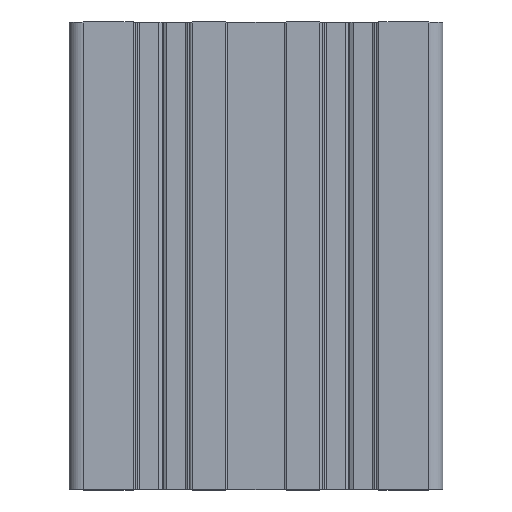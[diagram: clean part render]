
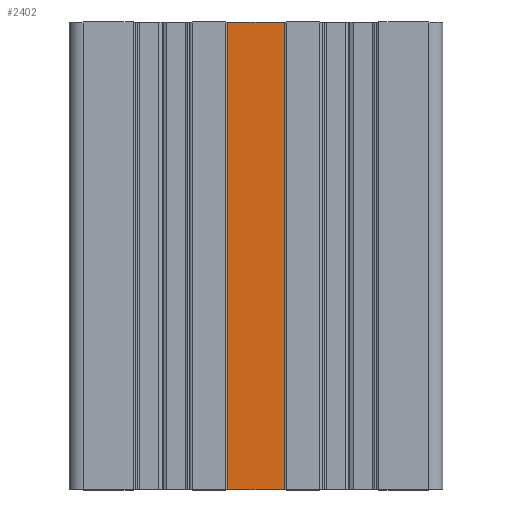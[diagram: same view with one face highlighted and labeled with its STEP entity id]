
A CAD part, top view. The second image highlights one B-rep face of the part: STEP entity #2402.
In plain terms, the highlighted planar face has unit normal (0, 0, 1).
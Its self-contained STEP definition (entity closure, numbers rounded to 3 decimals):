
#2402 = ADVANCED_FACE( '', ( #4835 ), #4836, .T. );
#4835 = FACE_OUTER_BOUND( '', #7272, .T. );
#4836 = PLANE( '', #7273 );
#7272 = EDGE_LOOP( '', ( #15211, #15212, #15213, #15214 ) );
#7273 = AXIS2_PLACEMENT_3D( '', #15215, #15216, #15217 );
#15211 = ORIENTED_EDGE( '', *, *, #16233, .F. );
#15212 = ORIENTED_EDGE( '', *, *, #18366, .F. );
#15213 = ORIENTED_EDGE( '', *, *, #18465, .T. );
#15214 = ORIENTED_EDGE( '', *, *, #17101, .T. );
#15215 = CARTESIAN_POINT( '', ( 6., 100., 59. ) );
#15216 = DIRECTION( '', ( 0., 0., 1. ) );
#15217 = DIRECTION( '', ( 0., -1., 0. ) );
#16233 = EDGE_CURVE( '', #20188, #20190, #20191, .T. );
#17101 = EDGE_CURVE( '', #21544, #20190, #21545, .T. );
#18366 = EDGE_CURVE( '', #23164, #20188, #23166, .T. );
#18465 = EDGE_CURVE( '', #23164, #21544, #23267, .T. );
#20188 = VERTEX_POINT( '', #25519 );
#20190 = VERTEX_POINT( '', #25522 );
#20191 = LINE( '', #25523, #25524 );
#21544 = VERTEX_POINT( '', #27338 );
#21545 = LINE( '', #27339, #27340 );
#23164 = VERTEX_POINT( '', #29555 );
#23166 = LINE( '', #29558, #29559 );
#23267 = LINE( '', #29688, #29689 );
#25519 = CARTESIAN_POINT( '', ( 6., 0., 59. ) );
#25522 = CARTESIAN_POINT( '', ( -6., 0., 59. ) );
#25523 = CARTESIAN_POINT( '', ( 6., 0., 59. ) );
#25524 = VECTOR( '', #31161, 1000. );
#27338 = CARTESIAN_POINT( '', ( -6., 100., 59. ) );
#27339 = CARTESIAN_POINT( '', ( -6., 100., 59. ) );
#27340 = VECTOR( '', #32307, 1000. );
#29555 = CARTESIAN_POINT( '', ( 6., 100., 59. ) );
#29558 = CARTESIAN_POINT( '', ( 6., 100., 59. ) );
#29559 = VECTOR( '', #33544, 1000. );
#29688 = CARTESIAN_POINT( '', ( 6., 100., 59. ) );
#29689 = VECTOR( '', #33654, 1000. );
#31161 = DIRECTION( '', ( -1., 0., 0. ) );
#32307 = DIRECTION( '', ( 0., -1., 0. ) );
#33544 = DIRECTION( '', ( 0., -1., 0. ) );
#33654 = DIRECTION( '', ( -1., 0., 0. ) );
